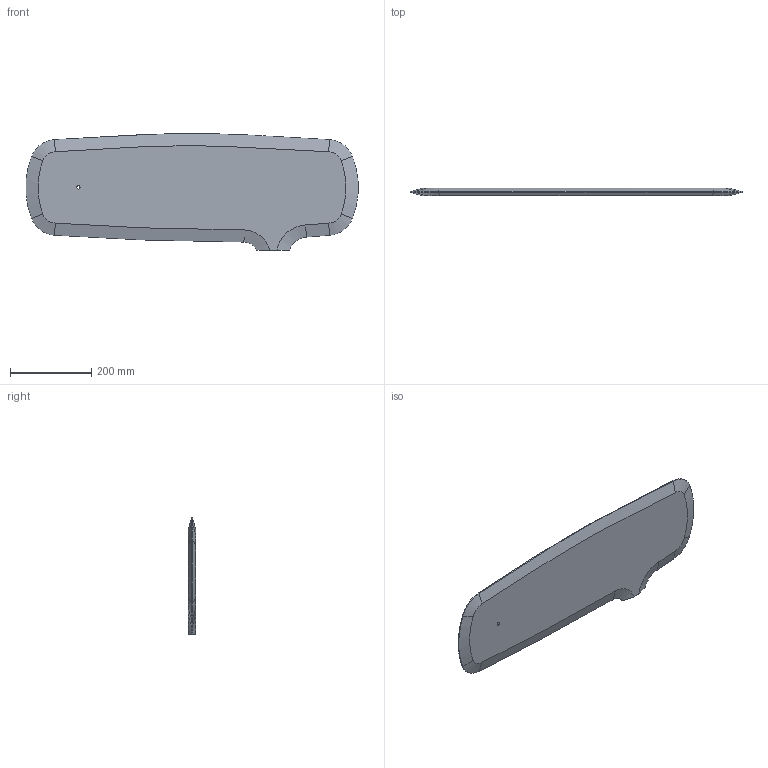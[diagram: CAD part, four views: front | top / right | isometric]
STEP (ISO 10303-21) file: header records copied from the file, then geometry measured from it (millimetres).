
FILE_DESCRIPTION (( 'STEP AP214' ), '1' );
FILE_NAME ('BALDA_S_FIX_ESQUINA.STEP', '2017-11-28T09:58:51', ( '' ), ( '' ), 'SwSTEP 2.0', 'SolidWorks 2016', '' );
FILE_SCHEMA (( 'AUTOMOTIVE_DESIGN' ));
Length unit declared in the file: millimetre
Products named in the file (1): BALDA_S_FIX_ESQUINA
Bounding box: 818.83 x 18 x 287.48 mm (x, y, z)
Volume: 3195512.4 mm3; surface area: 414428.6 mm2
Topology: 1 solids, 1 shells, 38 faces, 88 edges, 52 vertices
Faces by surface type: cone 16, cylinder 10, bspline 9, plane 3
Entity records: 2433 total; most frequent: CARTESIAN_POINT 1589, ORIENTED_EDGE 176, DIRECTION 156, EDGE_CURVE 88, AXIS2_PLACEMENT_3D 66, VERTEX_POINT 52, EDGE_LOOP 40, ADVANCED_FACE 38
